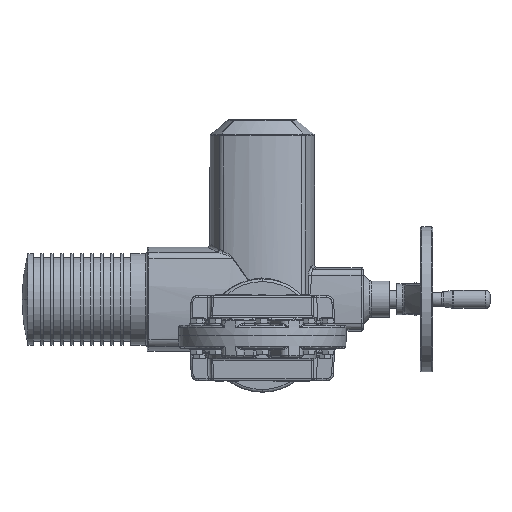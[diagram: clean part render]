
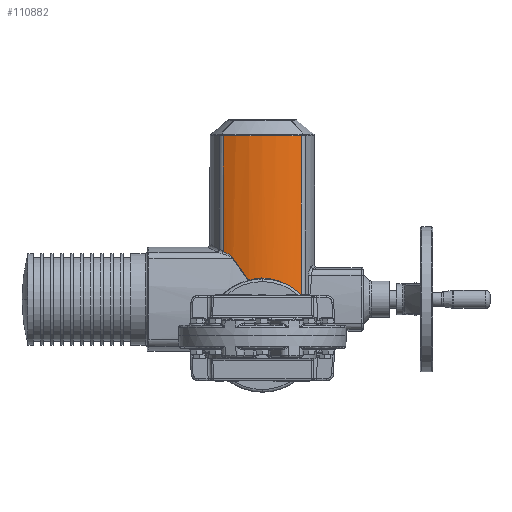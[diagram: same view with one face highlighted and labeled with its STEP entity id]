
A CAD part, front view. The second image highlights one B-rep face of the part: STEP entity #110882.
In plain terms, the highlighted cylindrical face has radius 100 mm (diameter 200 mm), a partial arc.
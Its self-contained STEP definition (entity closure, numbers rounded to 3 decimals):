
#4882 = CARTESIAN_POINT ( 'NONE',  ( 15.204, 352.137, 60.862 ) ) ;
#5217 = CARTESIAN_POINT ( 'NONE',  ( -36.228, 357.787, 89.011 ) ) ;
#5293 = CARTESIAN_POINT ( 'NONE',  ( -26.44, 354.376, 77.158 ) ) ;
#6306 = CARTESIAN_POINT ( 'NONE',  ( 38.764, 358.818, 46.82 ) ) ;
#7211 = DIRECTION ( 'NONE',  ( 1., 0., 0. ) ) ;
#8266 = CARTESIAN_POINT ( 'NONE',  ( 36.396, 357.858, 47.439 ) ) ;
#8863 = CARTESIAN_POINT ( 'NONE',  ( 37.791, 358.416, 47.097 ) ) ;
#9464 = ORIENTED_EDGE ( 'NONE', *, *, #78618, .T. ) ;
#13874 = VERTEX_POINT ( 'NONE', #8863 ) ;
#14531 = ORIENTED_EDGE ( 'NONE', *, *, #31477, .T. ) ;
#16233 = DIRECTION ( 'NONE',  ( 0., 0., -1. ) ) ;
#16249 = CARTESIAN_POINT ( 'NONE',  ( -10.443, 351.52, 62.174 ) ) ;
#16704 = CARTESIAN_POINT ( 'NONE',  ( -43.041, 360.737, 237.75 ) ) ;
#16735 = CARTESIAN_POINT ( 'NONE',  ( 20.562, 353.131, 58.699 ) ) ;
#17055 = CARTESIAN_POINT ( 'NONE',  ( -33.985, 356.951, 87.329 ) ) ;
#18168 = CARTESIAN_POINT ( 'NONE',  ( 40.164, 359.419, 46.232 ) ) ;
#19489 = ORIENTED_EDGE ( 'NONE', *, *, #77684, .T. ) ;
#28112 = CARTESIAN_POINT ( 'NONE',  ( -5.794, 351.161, 62.927 ) ) ;
#28437 = CARTESIAN_POINT ( 'NONE',  ( -43.041, 360.737, 92.391 ) ) ;
#28622 = CARTESIAN_POINT ( 'NONE',  ( 23.143, 353.713, 57.404 ) ) ;
#28648 = EDGE_CURVE ( 'NONE', #72707, #72142, #154071, .T. ) ;
#28875 = CARTESIAN_POINT ( 'NONE',  ( -43.041, 360.737, 220.035 ) ) ;
#28963 = CARTESIAN_POINT ( 'NONE',  ( -32.772, 356.521, 86.153 ) ) ;
#29014 = ORIENTED_EDGE ( 'NONE', *, *, #28648, .T. ) ;
#30097 = CARTESIAN_POINT ( 'NONE',  ( 42.296, 360.381, 44.907 ) ) ;
#31477 = EDGE_CURVE ( 'NONE', #72142, #47548, #39186, .T. ) ;
#35212 = CARTESIAN_POINT ( 'NONE',  ( 43.041, 360.737, 220.035 ) ) ;
#38579 = CARTESIAN_POINT ( 'NONE',  ( -14.967, 352.126, 60.881 ) ) ;
#39186 = B_SPLINE_CURVE_WITH_KNOTS ( 'NONE', 3,
 ( #75254, #87176, #16249, #99071, #28112, #111016, #39969, #122955, #51863, #135035, #63883, #146993, #75759, #4882, #87704, #16735, #99612, #28622, #111548, #40476, #123479, #52379, #135564, #64370, #147499, #76278 ),
 .UNSPECIFIED., .F., .F.,
 ( 4, 2, 2, 2, 2, 2, 2, 2, 2, 2, 2, 2, 4 ),
 ( 0., 0.007, 0.011, 0.014, 0.021, 0.025, 0.028, 0.035, 0.039, 0.041, 0.042, 0.05, 0.057 ),
 .UNSPECIFIED. ) ;
#39969 = CARTESIAN_POINT ( 'NONE',  ( -2.243, 351.018, 63.226 ) ) ;
#40476 = CARTESIAN_POINT ( 'NONE',  ( 24.662, 354.087, 56.561 ) ) ;
#40802 = CARTESIAN_POINT ( 'NONE',  ( -32.064, 356.28, 85.242 ) ) ;
#40902 = CARTESIAN_POINT ( 'NONE',  ( -14.967, 352.126, 60.881 ) ) ;
#41449 = DIRECTION ( 'NONE',  ( -1., 0., 0. ) ) ;
#44386 = B_SPLINE_CURVE_WITH_KNOTS ( 'NONE', 3,
 ( #73176, #85088, #133415, #62306 ),
 .UNSPECIFIED., .F., .F.,
 ( 4, 4 ),
 ( 0.008, 0.009 ),
 .UNSPECIFIED. ) ;
#47548 = VERTEX_POINT ( 'NONE', #8266 ) ;
#49499 = ORIENTED_EDGE ( 'NONE', *, *, #91483, .F. ) ;
#51863 = CARTESIAN_POINT ( 'NONE',  ( 3.673, 351.04, 63.181 ) ) ;
#52379 = CARTESIAN_POINT ( 'NONE',  ( 27.641, 354.874, 54.766 ) ) ;
#52857 = CARTESIAN_POINT ( 'NONE',  ( 0., 451., 237.75 ) ) ;
#62306 = CARTESIAN_POINT ( 'NONE',  ( 37.791, 358.416, 47.097 ) ) ;
#63851 = VERTEX_POINT ( 'NONE', #107844 ) ;
#63883 = CARTESIAN_POINT ( 'NONE',  ( 8.354, 351.343, 62.546 ) ) ;
#64187 = CARTESIAN_POINT ( 'NONE',  ( -41.052, 359.808, 91.582 ) ) ;
#64370 = CARTESIAN_POINT ( 'NONE',  ( 33.093, 356.616, 50.604 ) ) ;
#64861 = DIRECTION ( 'NONE',  ( 0., 0., -1. ) ) ;
#65310 = CARTESIAN_POINT ( 'NONE',  ( 37.791, 358.416, 47.097 ) ) ;
#72142 = VERTEX_POINT ( 'NONE', #38579 ) ;
#72180 = CARTESIAN_POINT ( 'NONE',  ( -32.064, 356.28, 85.242 ) ) ;
#72707 = VERTEX_POINT ( 'NONE', #72180 ) ;
#73176 = CARTESIAN_POINT ( 'NONE',  ( 36.396, 357.858, 47.439 ) ) ;
#75254 = CARTESIAN_POINT ( 'NONE',  ( -14.967, 352.126, 60.881 ) ) ;
#75759 = CARTESIAN_POINT ( 'NONE',  ( 11.825, 351.695, 61.802 ) ) ;
#76087 = CARTESIAN_POINT ( 'NONE',  ( -38.126, 358.548, 90.142 ) ) ;
#76177 = CARTESIAN_POINT ( 'NONE',  ( -20.733, 352.999, 69.042 ) ) ;
#76278 = CARTESIAN_POINT ( 'NONE',  ( 36.396, 357.858, 47.439 ) ) ;
#77684 = EDGE_CURVE ( 'NONE', #136419, #72707, #87724, .T. ) ;
#78127 = DIRECTION ( 'NONE',  ( 0., 0., -1. ) ) ;
#78618 = EDGE_CURVE ( 'NONE', #80352, #136419, #81514, .T. ) ;
#79165 = CARTESIAN_POINT ( 'NONE',  ( -43.041, 360.737, 92.391 ) ) ;
#80352 = VERTEX_POINT ( 'NONE', #28875 ) ;
#81514 = LINE ( 'NONE', #16704, #141010 ) ;
#85088 = CARTESIAN_POINT ( 'NONE',  ( 36.862, 358.041, 47.327 ) ) ;
#87162 = CARTESIAN_POINT ( 'NONE',  ( 43.041, 360.737, 237.75 ) ) ;
#87176 = CARTESIAN_POINT ( 'NONE',  ( -12.724, 351.787, 61.609 ) ) ;
#87241 = ORIENTED_EDGE ( 'NONE', *, *, #120438, .T. ) ;
#87704 = CARTESIAN_POINT ( 'NONE',  ( 17.386, 352.499, 60.082 ) ) ;
#87724 = B_SPLINE_CURVE_WITH_KNOTS ( 'NONE', 3,
 ( #28437, #134862, #64187, #147316, #76087, #5217, #88019, #17055, #99953, #28963, #111867, #40802 ),
 .UNSPECIFIED., .F., .F.,
 ( 4, 2, 2, 2, 2, 4 ),
 ( 0., 0.003, 0.007, 0.01, 0.012, 0.014 ),
 .UNSPECIFIED. ) ;
#88019 = CARTESIAN_POINT ( 'NONE',  ( -35.292, 357.43, 88.385 ) ) ;
#89145 = CARTESIAN_POINT ( 'NONE',  ( 39.706, 359.219, 46.448 ) ) ;
#90946 = B_SPLINE_CURVE_WITH_KNOTS ( 'NONE', 3,
 ( #65310, #136478, #6306, #89145, #18168, #101056, #30097, #112971 ),
 .UNSPECIFIED., .F., .F.,
 ( 4, 2, 2, 4 ),
 ( 0., 0.002, 0.003, 0.007 ),
 .UNSPECIFIED. ) ;
#91483 = EDGE_CURVE ( 'NONE', #91688, #63851, #101737, .T. ) ;
#91688 = VERTEX_POINT ( 'NONE', #35212 ) ;
#99071 = CARTESIAN_POINT ( 'NONE',  ( -6.964, 351.236, 62.77 ) ) ;
#99612 = CARTESIAN_POINT ( 'NONE',  ( 21.604, 353.356, 58.202 ) ) ;
#99953 = CARTESIAN_POINT ( 'NONE',  ( -33.565, 356.8, 86.957 ) ) ;
#101056 = CARTESIAN_POINT ( 'NONE',  ( 41.482, 360.005, 45.502 ) ) ;
#101737 = LINE ( 'NONE', #87162, #129602 ) ;
#107844 = CARTESIAN_POINT ( 'NONE',  ( 43.041, 360.737, 44.194 ) ) ;
#110882 = ADVANCED_FACE ( 'NONE', ( #135816 ), #152519, .T. ) ;
#111016 = CARTESIAN_POINT ( 'NONE',  ( -3.436, 351.052, 63.155 ) ) ;
#111548 = CARTESIAN_POINT ( 'NONE',  ( 23.652, 353.836, 57.129 ) ) ;
#111867 = CARTESIAN_POINT ( 'NONE',  ( -32.398, 356.393, 85.723 ) ) ;
#111955 = CARTESIAN_POINT ( 'NONE',  ( -32.064, 356.28, 85.242 ) ) ;
#112971 = CARTESIAN_POINT ( 'NONE',  ( 43.041, 360.737, 44.194 ) ) ;
#117111 = AXIS2_PLACEMENT_3D ( 'NONE', #52857, #64861, #41449 ) ;
#119240 = EDGE_CURVE ( 'NONE', #47548, #13874, #44386, .T. ) ;
#120438 = EDGE_CURVE ( 'NONE', #13874, #63851, #90946, .T. ) ;
#122955 = CARTESIAN_POINT ( 'NONE',  ( 1.316, 350.981, 63.304 ) ) ;
#123479 = CARTESIAN_POINT ( 'NONE',  ( 25.164, 354.217, 56.268 ) ) ;
#129602 = VECTOR ( 'NONE', #16233, 1000. ) ;
#133415 = CARTESIAN_POINT ( 'NONE',  ( 37.328, 358.227, 47.213 ) ) ;
#134862 = CARTESIAN_POINT ( 'NONE',  ( -42.042, 360.26, 92.005 ) ) ;
#135035 = CARTESIAN_POINT ( 'NONE',  ( 7.186, 351.252, 62.737 ) ) ;
#135564 = CARTESIAN_POINT ( 'NONE',  ( 29.519, 355.438, 53.45 ) ) ;
#135816 = FACE_OUTER_BOUND ( 'NONE', #149694, .T. ) ;
#136419 = VERTEX_POINT ( 'NONE', #79165 ) ;
#136478 = CARTESIAN_POINT ( 'NONE',  ( 38.283, 358.617, 46.974 ) ) ;
#141010 = VECTOR ( 'NONE', #147992, 1000. ) ;
#141113 = ORIENTED_EDGE ( 'NONE', *, *, #142132, .T. ) ;
#142132 = EDGE_CURVE ( 'NONE', #91688, #80352, #151583, .T. ) ;
#146624 = AXIS2_PLACEMENT_3D ( 'NONE', #149357, #78127, #7211 ) ;
#146993 = CARTESIAN_POINT ( 'NONE',  ( 10.68, 351.565, 62.077 ) ) ;
#147316 = CARTESIAN_POINT ( 'NONE',  ( -39.094, 358.952, 90.65 ) ) ;
#147499 = CARTESIAN_POINT ( 'NONE',  ( 34.788, 357.23, 49.074 ) ) ;
#147649 = ORIENTED_EDGE ( 'NONE', *, *, #119240, .T. ) ;
#147992 = DIRECTION ( 'NONE',  ( 0., 0., -1. ) ) ;
#149357 = CARTESIAN_POINT ( 'NONE',  ( 0., 451., 220.035 ) ) ;
#149694 = EDGE_LOOP ( 'NONE', ( #9464, #19489, #29014, #14531, #147649, #87241, #49499, #141113 ) ) ;
#151583 = CIRCLE ( 'NONE', #146624, 100. ) ;
#152519 = CYLINDRICAL_SURFACE ( 'NONE', #117111, 100. ) ;
#154071 = B_SPLINE_CURVE_WITH_KNOTS ( 'NONE', 3,
 ( #111955, #5293, #76177, #40902 ),
 .UNSPECIFIED., .F., .F.,
 ( 4, 4 ),
 ( 0., 0.03 ),
 .UNSPECIFIED. ) ;
